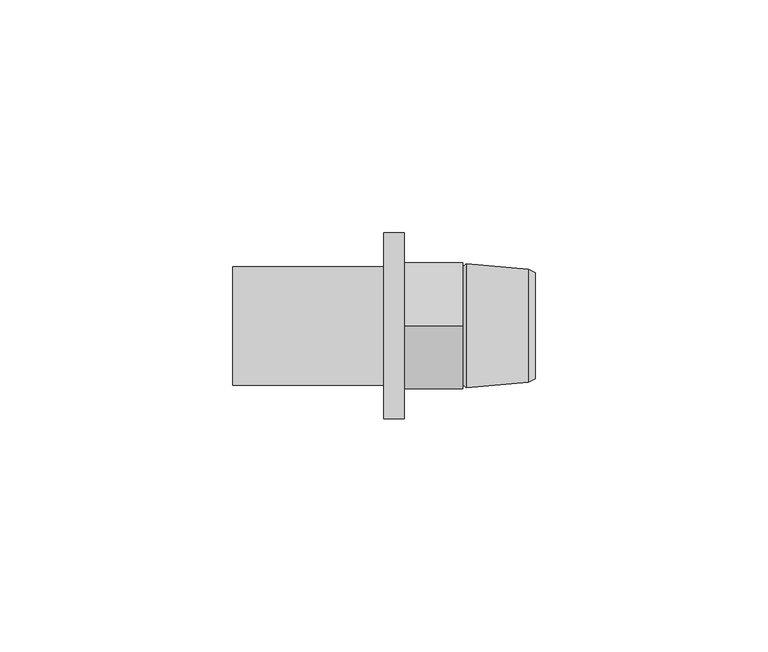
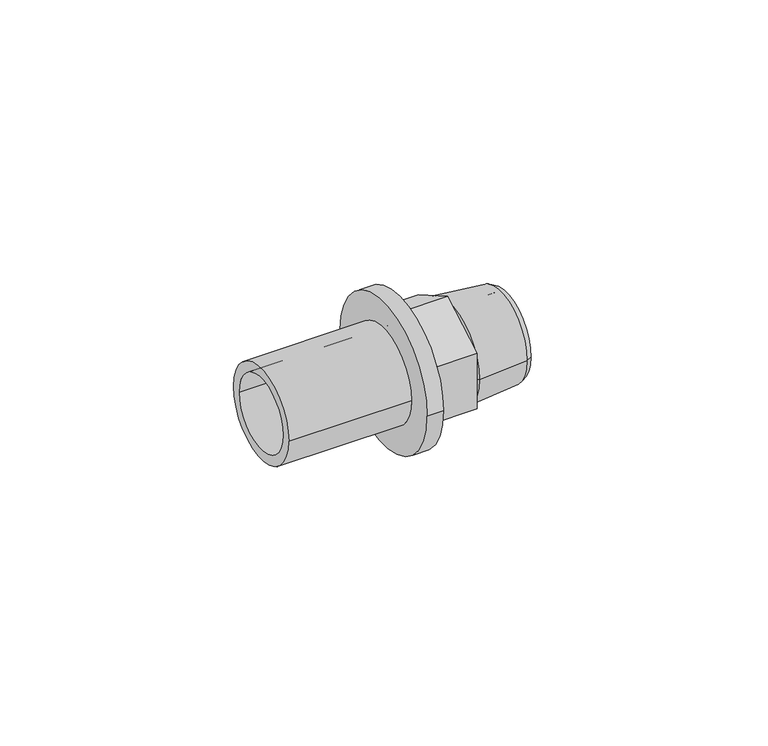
"""IFC4 building model written with IfcOpenShell, lengths in millimetres: pipe fitting geometry, RAUTITAN_Adapter_external_thread LX+G_LX : RTI A external LX+G_LX DE."""

import ifcopenshell
import ifcopenshell.guid

model = None  # the IFC model being written
_history = None  # IfcOwnerHistory: only IFC2X3 demands one
_inside = {}  # id of a spatial element -> (the spatial element, [elements in it])
_under = {}  # id of a project, library or spatial element -> (it, [spatial elements below it])
_declared = {}  # id of a project -> (the project, [libraries it declares])
_typed = {}  # id of a type object -> (the type object, [elements of that type])
_made_of = {}  # id of a material, layer set ... -> (it, [elements and type objects made of it])


def new_model(schema):
    """Start an empty IFC model of exactly this schema.

    Asked for "IFC4X3", IfcOpenShell would pick the latest addendum, in which some entities
    have other attributes; the version numbers below select the first issue.
    IFC2X3 requires an IfcOwnerHistory on every rooted entity: one is made here for all.
    """
    global model, _history
    if schema == "IFC4X3":
        model = ifcopenshell.file(schema_version=(4, 3, 0, 0))
    else:
        model = ifcopenshell.file(schema=schema)
    _inside.clear()
    _under.clear()
    _declared.clear()
    _typed.clear()
    _made_of.clear()
    _history = None
    if model.schema == "IFC2X3":
        org = make("IfcOrganization", Name="unknown")
        user = make(
            "IfcPersonAndOrganization",
            ThePerson=make("IfcPerson", FamilyName="unknown"),
            TheOrganization=org,
        )
        app = make(
            "IfcApplication",
            ApplicationDeveloper=org,
            Version="unknown",
            ApplicationFullName="unknown",
            ApplicationIdentifier="unknown",
        )
        _history = make(
            "IfcOwnerHistory",
            OwningUser=user,
            OwningApplication=app,
            ChangeAction="ADDED",
            CreationDate=0,
        )
    return model


def make(cls, **values):
    """One entity of the class cls with the attributes given. An attribute that is None is left unset."""
    return model.create_entity(
        cls, **{name: value for name, value in values.items() if value is not None}
    )


def rooted(cls, **values):
    """An entity with a GlobalId (a new one), such as an element, a storey or a relation."""
    return make(cls, GlobalId=ifcopenshell.guid.new(), OwnerHistory=_history, **values)


def si_unit(unit_type, name, prefix=None):
    """IfcSIUnit, for example si_unit("LENGTHUNIT", "METRE", prefix="MILLI")."""
    return make("IfcSIUnit", UnitType=unit_type, Prefix=prefix, Name=name)


def assignment(units):
    """IfcUnitAssignment: the units of a project."""
    return None if units is None else make("IfcUnitAssignment", Units=units)


def point(xyz):
    """IfcCartesianPoint."""
    return None if xyz is None else make("IfcCartesianPoint", Coordinates=xyz)


def direction(xyz):
    """IfcDirection."""
    return None if xyz is None else make("IfcDirection", DirectionRatios=xyz)


def frame(location, z_axis=None, x_axis=None):
    """IfcAxis2Placement3D, a coordinate frame: its origin and axes. An axis left out is left unset."""
    return make(
        "IfcAxis2Placement3D",
        Location=point(location),
        Axis=direction(z_axis),
        RefDirection=direction(x_axis),
    )


def origin():
    """The frame at (0, 0, 0) with its axes left unset."""
    return frame((0.0, 0.0, 0.0))


def place(relative_to, where):
    """IfcLocalPlacement: puts the frame where relative to a parent placement (None: the world)."""
    return make(
        "IfcLocalPlacement", PlacementRelTo=relative_to, RelativePlacement=where
    )


def context(
    kind, dimensions, precision=None, world=None, true_north=None, identifier=None
):
    """IfcGeometricRepresentationContext, for example the 3D "Model" context."""
    return make(
        "IfcGeometricRepresentationContext",
        ContextIdentifier=identifier,
        ContextType=kind,
        CoordinateSpaceDimension=dimensions,
        Precision=precision,
        WorldCoordinateSystem=world,
        TrueNorth=true_north,
    )


def project(units=None, contexts=None):
    """IfcProject with its units and contexts."""
    return rooted(
        "IfcProject",
        Name="project",
        RepresentationContexts=contexts,
        UnitsInContext=assignment(units),
    )


def spatial(cls, under=None, at=None, **own):
    """A site, building, storey or space (cls), placed at a placement, below another one or the project."""
    s = rooted(cls, ObjectPlacement=at, **own)
    if under is not None:
        _under.setdefault(under.id(), (under, []))[1].append(s)
    return s


def polyline(points):
    """IfcPolyline through the points."""
    return make("IfcPolyline", Points=[point(p) for p in points])


def circle_curve(where, radius):
    """IfcCircle in the frame where."""
    return make("IfcCircle", Position=where, Radius=radius)


def outline(outer, holes=None, kind="AREA"):
    """IfcArbitraryClosedProfileDef: a profile drawn as a closed curve; with holes, ...WithVoids."""
    if holes is None:
        return make("IfcArbitraryClosedProfileDef", ProfileType=kind, OuterCurve=outer)
    return make(
        "IfcArbitraryProfileDefWithVoids",
        ProfileType=kind,
        OuterCurve=outer,
        InnerCurves=holes,
    )


def extrude(swept, where, along, depth):
    """IfcExtrudedAreaSolid: the profile swept, set in the frame where, extruded along a direction by depth."""
    return make(
        "IfcExtrudedAreaSolid",
        SweptArea=swept,
        Position=where,
        ExtrudedDirection=direction(along),
        Depth=depth,
    )


def shape(context_of_items, identifier, shape_type, items):
    """IfcShapeRepresentation: the items that make up one representation, for example the "Body"."""
    return make(
        "IfcShapeRepresentation",
        ContextOfItems=context_of_items,
        RepresentationIdentifier=identifier,
        RepresentationType=shape_type,
        Items=items,
    )


def source(mapping_origin, context_of_items, identifier, shape_type, items):
    """IfcRepresentationMap: a shape defined once, which mapped items show again and again."""
    return make(
        "IfcRepresentationMap",
        MappingOrigin=mapping_origin,
        MappedRepresentation=shape(context_of_items, identifier, shape_type, items),
    )


def transform(
    local_origin,
    x_axis=None,
    y_axis=None,
    z_axis=None,
    scale=None,
    scale2=None,
    scale3=None,
    uniform=True,
):
    """IfcCartesianTransformationOperator3D, or its non-uniform kind. x_axis, y_axis, z_axis: its Axis1, 2, 3."""
    if uniform:
        return make(
            "IfcCartesianTransformationOperator3D",
            Axis1=direction(x_axis),
            Axis2=direction(y_axis),
            LocalOrigin=point(local_origin),
            Scale=scale,
            Axis3=direction(z_axis),
        )
    return make(
        "IfcCartesianTransformationOperator3DnonUniform",
        Axis1=direction(x_axis),
        Axis2=direction(y_axis),
        LocalOrigin=point(local_origin),
        Scale=scale,
        Axis3=direction(z_axis),
        Scale2=scale2,
        Scale3=scale3,
    )


def mapped(mapping_source, mapping_target):
    """IfcMappedItem: shows the shape of a source again, moved by a transform."""
    return make(
        "IfcMappedItem", MappingSource=mapping_source, MappingTarget=mapping_target
    )


def made_of(thing, what):
    """Note that an element or type object is made of a material, layer set ...; save() writes the relation."""
    if what is not None:
        _made_of.setdefault(what.id(), (what, []))[1].append(thing)
    return thing


def element(
    cls,
    number,
    at=None,
    inside=None,
    cuts=None,
    type_object=None,
    material=None,
    context=None,
    identifier="Body",
    shape_type=None,
    held_by="IfcProductDefinitionShape",
    body=None,
    shapes=None,
    **own,
):
    """One element of the class cls, such as IfcWall. Its Tag is "e" and its number.

    at: its placement. inside: the storey or other place that contains it. cuts: it is an
    opening in that element (IfcRelVoidsElement). A single representation is given by context,
    identifier, shape_type and body (its items); several are given by shapes. held_by: the class
    of the entity that holds the representations. save() writes the other relations.
    """
    e = rooted(cls, Tag="e%d" % number, ObjectPlacement=at, **own)
    if body is not None:
        shapes = [shape(context, identifier, shape_type, body)]
    if shapes is not None:
        e.Representation = make(held_by, Representations=shapes)
    if inside is not None:
        _inside.setdefault(inside.id(), (inside, []))[1].append(e)
    if cuts is not None:
        rooted(
            "IfcRelVoidsElement", RelatingBuildingElement=cuts, RelatedOpeningElement=e
        )
    if type_object is not None:
        _typed.setdefault(type_object.id(), (type_object, []))[1].append(e)
    return made_of(e, material)


def aggregate(whole, parts):
    """IfcRelAggregates: a whole, such as a stair, and the parts it consists of."""
    return rooted("IfcRelAggregates", RelatingObject=whole, RelatedObjects=parts)


def save(model, path):
    """Write the relations noted so far, then the file.

    IfcRelAggregates (storeys below a building ...), IfcRelContainedInSpatialStructure (elements
    in a storey), IfcRelDefinesByType, IfcRelAssociatesMaterial and IfcRelDeclares: one each for
    every whole, place, type object, material and project.
    """
    for whole, parts in _under.values():
        aggregate(whole, parts)
    for where, things in _inside.values():
        rooted(
            "IfcRelContainedInSpatialStructure",
            RelatedElements=things,
            RelatingStructure=where,
        )
    for kind, things in _typed.values():
        rooted("IfcRelDefinesByType", RelatedObjects=things, RelatingType=kind)
    for what, things in _made_of.values():
        rooted("IfcRelAssociatesMaterial", RelatedObjects=things, RelatingMaterial=what)
    for by, libraries in _declared.values():
        rooted("IfcRelDeclares", RelatingContext=by, RelatedDefinitions=libraries)
    model.write(path)


def plane_surface(at):
    """IfcPlane: the flat surface through the origin of the frame at, square to its z axis."""
    return make("IfcPlane", Position=at)


def cylinder_surface(at, radius):
    """IfcCylindricalSurface: all points at the distance radius from the z axis of the frame at."""
    return make("IfcCylindricalSurface", Position=at, Radius=radius)


def revolved_surface(curve, axis_point, axis_direction):
    """IfcSurfaceOfRevolution: the curve turned about the line through axis_point along axis_direction."""
    return make(
        "IfcSurfaceOfRevolution",
        SweptCurve=make("IfcArbitraryOpenProfileDef", ProfileType="CURVE", Curve=curve),
        AxisPosition=make("IfcAxis1Placement", Location=point(axis_point), Axis=direction(axis_direction)),
    )


def advanced_brep(points, edges, surfaces, faces):
    """IfcAdvancedBrep: a solid bounded by faces that lie on surfaces and meet in shared edges.

    An edge is (start, end): straight between two places in points (the first is 0);
    or (start, end, curve); or (start, end, curve, False) where it runs against its curve.
    A face is (place in surfaces, loops), or (place, loops, False) where it looks against
    its surface's normal. A loop lists edges by number (the first is 1), with a minus sign
    where the edge is run from its end to its start. The first loop is the outer one.
    """
    corners = [point(p) for p in points]
    vertices = [make("IfcVertexPoint", VertexGeometry=c) for c in corners]
    made = []
    for start, end, *more in edges:
        made.append(
            make(
                "IfcEdgeCurve",
                EdgeStart=vertices[start],
                EdgeEnd=vertices[end],
                EdgeGeometry=more[0] if more else make("IfcPolyline", Points=[corners[start], corners[end]]),
                SameSense=more[1] if len(more) > 1 else True,
            )
        )
    hull = []
    for where, loops, *sense in faces:
        bounds = []
        for j, loop in enumerate(loops):
            ring = [make("IfcOrientedEdge", EdgeElement=made[abs(k) - 1], Orientation=k > 0) for k in loop]
            bounds.append(
                make(
                    "IfcFaceOuterBound" if j == 0 else "IfcFaceBound",
                    Bound=make("IfcEdgeLoop", EdgeList=ring),
                    Orientation=True,
                )
            )
        hull.append(make("IfcAdvancedFace", Bounds=bounds, FaceSurface=surfaces[where], SameSense=sense[0] if sense else True))
    return make("IfcAdvancedBrep", Outer=make("IfcClosedShell", CfsFaces=hull))


def pipe_fitting_1be4a6b4(model_context):
    return source(origin(), model_context, "Body", "SolidModel", [
        advanced_brep(
        [(-4.33, 12.725, 0.0), (-4.33, -12.725, 0.0), (-36.81, -12.725, 0.0), (-36.81, 12.725, 0.0), (0.0, 20.0, 0.0), (0.0, -20.0, 0.0), (-4.33, -20.0, 0.0), (-4.33, 20.0, 0.0), (-36.81, 10.0, 0.0), (-36.81, -10.0, 0.0), (0.0, -10.0, 0.0), (0.0, 10.0, 0.0)],
        [
            (0, 1, circle_curve(frame((-4.33, 0.0, 0.0), z_axis=(-1.0, 0.0, 0.0), x_axis=(0.0, -1.0, 0.0)), 12.725)),
            (1, 2),
            (2, 3, circle_curve(frame((-36.81, 0.0, 0.0), z_axis=(1.0, 0.0, 0.0), x_axis=(0.0, -1.0, 0.0)), 12.725)),
            (3, 0),
            (4, 5, circle_curve(frame((0.0, 0.0, 0.0), z_axis=(-1.0, 0.0, 0.0), x_axis=(0.0, -1.0, 0.0)), 20.0)),
            (5, 6),
            (6, 7, circle_curve(frame((-4.33, 0.0, 0.0), z_axis=(1.0, 0.0, 0.0), x_axis=(0.0, -1.0, 0.0)), 20.0)),
            (7, 4),
            (8, 9, circle_curve(frame((-36.81, 0.0, 0.0), z_axis=(-1.0, 0.0, 0.0), x_axis=(0.0, -1.0, 0.0)), 10.0)),
            (9, 10),
            (10, 11, circle_curve(frame((0.0, 0.0, 0.0), z_axis=(1.0, 0.0, 0.0), x_axis=(0.0, -1.0, 0.0)), 10.0)),
            (11, 8),
            (2, 3, circle_curve(frame((-36.81, 0.0, 0.0), z_axis=(-1.0, 0.0, 0.0), x_axis=(0.0, 1.0, 0.0)), 12.725)),
            (8, 9, circle_curve(frame((-36.81, 0.0, 0.0), z_axis=(1.0, 0.0, 0.0), x_axis=(0.0, 1.0, 0.0)), 10.0)),
            (1, 0, circle_curve(frame((-4.33, 0.0, 0.0), z_axis=(-1.0, 0.0, 0.0), x_axis=(0.0, 1.0, 0.0)), 12.725)),
            (6, 7, circle_curve(frame((-4.33, 0.0, 0.0), z_axis=(-1.0, 0.0, 0.0), x_axis=(0.0, 1.0, 0.0)), 20.0)),
            (5, 4, circle_curve(frame((0.0, 0.0, 0.0), z_axis=(-1.0, 0.0, 0.0), x_axis=(0.0, 1.0, 0.0)), 20.0)),
            (10, 11, circle_curve(frame((0.0, 0.0, 0.0), z_axis=(-1.0, 0.0, 0.0), x_axis=(0.0, 1.0, 0.0)), 10.0)),
        ],
        [
            cylinder_surface(frame((0.0, 0.0, 0.0), z_axis=(1.0, 0.0, 0.0), x_axis=(0.0, -1.0, 0.0)), 12.725),
            cylinder_surface(frame((0.0, 0.0, 0.0), z_axis=(1.0, 0.0, 0.0), x_axis=(0.0, -1.0, 0.0)), 20.0),
            revolved_surface(polyline([(0.0, -10.0, 0.0), (-36.81, -10.0, 0.0)]), (0.0, 0.0, 0.0), (1.0, 0.0, 0.0)),
            plane_surface(frame((-36.81, 0.0, 0.0), z_axis=(-1.0, 0.0, 0.0), x_axis=(0.0, 1.0, 0.0))),
            cylinder_surface(frame((0.0, 0.0, 0.0), z_axis=(1.0, 0.0, 0.0), x_axis=(0.0, 1.0, 0.0)), 12.725),
            plane_surface(frame((-4.33, 0.0, 0.0), z_axis=(-1.0, 0.0, 0.0), x_axis=(0.0, 1.0, 0.0))),
            cylinder_surface(frame((0.0, 0.0, 0.0), z_axis=(1.0, 0.0, 0.0), x_axis=(0.0, 1.0, 0.0)), 20.0),
            plane_surface(frame((0.0, 0.0, 0.0), z_axis=(1.0, 0.0, 0.0), x_axis=(0.0, 1.0, 0.0))),
            revolved_surface(polyline([(0.0, 10.0, 0.0), (-36.81, 10.0, 0.0)]), (0.0, 0.0, 0.0), (1.0, 0.0, 0.0)),
        ],
        [
            (0, [[1, 2, 3, 4]]),
            (1, [[5, 6, 7, 8]]),
            (2, [[9, 10, 11, 12]]),
            (3, [[13, -3], [14, -9]]),
            (4, [[15, -4, -13, -2]]),
            (5, [[16, -7], [-15, -1]]),
            (6, [[17, -8, -16, -6]]),
            (7, [[-17, -5], [18, -11]]),
            (8, [[-14, -12, -18, -10]]),
        ],
    ),
        advanced_brep(
        [(13.7532803, 9.5, 0.0), (13.7532803, -9.5, 0.0), (28.19, -9.5, 0.0), (28.19, 9.5, 0.0), (12.65, 8.3967197, 0.0), (12.65, -8.3967197, 0.0), (13.3906902, 13.29, 0.0), (13.3906902, -13.29, 0.0), (12.65, -12.7, 0.0), (12.65, 12.7, 0.0), (26.6900007, 12.13, 0.0), (26.6900007, -12.13, 0.0), (28.19, 11.375, 0.0), (28.19, -11.375, 0.0)],
        [
            (0, 1, circle_curve(frame((13.7532803, 0.0, 0.0), z_axis=(-1.0, 0.0, 0.0), x_axis=(0.0, -1.0, 0.0)), 9.5)),
            (1, 2),
            (2, 3, circle_curve(frame((28.19, 0.0, 0.0), z_axis=(1.0, 0.0, 0.0), x_axis=(0.0, -1.0, 0.0)), 9.5)),
            (3, 0),
            (4, 5, circle_curve(frame((12.65, 0.0, 0.0), z_axis=(-1.0, 0.0, 0.0), x_axis=(0.0, -1.0, 0.0)), 8.3967197)),
            (5, 1),
            (0, 4),
            (6, 7, circle_curve(frame((13.3906902, 0.0, 0.0), z_axis=(-1.0, 0.0, 0.0), x_axis=(0.0, -1.0, 0.0)), 13.29)),
            (7, 8),
            (8, 9, circle_curve(frame((12.65, 0.0, 0.0), z_axis=(1.0, 0.0, 0.0), x_axis=(0.0, -1.0, 0.0)), 12.7)),
            (9, 6),
            (10, 11, circle_curve(frame((26.6900007, 0.0, 0.0), z_axis=(-1.0, 0.0, 0.0), x_axis=(0.0, -1.0, 0.0)), 12.13)),
            (11, 7),
            (6, 10),
            (12, 13, circle_curve(frame((28.19, 0.0, 0.0), z_axis=(-1.0, 0.0, 0.0), x_axis=(0.0, -1.0, 0.0)), 11.375)),
            (13, 11),
            (10, 12),
            (1, 0, circle_curve(frame((13.7532803, 0.0, 0.0), z_axis=(-1.0, 0.0, 0.0), x_axis=(0.0, 1.0, 0.0)), 9.5)),
            (3, 2, circle_curve(frame((28.19, 0.0, 0.0), z_axis=(1.0, 0.0, 0.0), x_axis=(0.0, 1.0, 0.0)), 9.5)),
            (5, 4, circle_curve(frame((12.65, 0.0, 0.0), z_axis=(-1.0, 0.0, 0.0), x_axis=(0.0, 1.0, 0.0)), 8.3967197)),
            (8, 9, circle_curve(frame((12.65, 0.0, 0.0), z_axis=(-1.0, 0.0, 0.0), x_axis=(0.0, 1.0, 0.0)), 12.7)),
            (7, 6, circle_curve(frame((13.3906902, 0.0, 0.0), z_axis=(-1.0, 0.0, 0.0), x_axis=(0.0, 1.0, 0.0)), 13.29)),
            (11, 10, circle_curve(frame((26.6900007, 0.0, 0.0), z_axis=(-1.0, 0.0, 0.0), x_axis=(0.0, 1.0, 0.0)), 12.13)),
            (13, 12, circle_curve(frame((28.19, 0.0, 0.0), z_axis=(-1.0, 0.0, 0.0), x_axis=(0.0, 1.0, 0.0)), 11.375)),
        ],
        [
            revolved_surface(polyline([(28.19, -9.5, 0.0), (13.7532803, -9.5, 0.0)]), (0.0, 0.0, 0.0), (1.0, 0.0, 0.0)),
            revolved_surface(polyline([(13.7532803, -9.5, 0.0), (12.65, -8.3967197, 0.0)]), (0.0, 0.0, 0.0), (1.0, 0.0, 0.0)),
            revolved_surface(polyline([(12.65, -12.7, 0.0), (13.3906902, -13.29, 0.0)]), (0.0, 0.0, 0.0), (1.0, 0.0, 0.0)),
            revolved_surface(polyline([(13.3906902, -13.29, 0.0), (26.6900007, -12.13, 0.0)]), (0.0, 0.0, 0.0), (1.0, 0.0, 0.0)),
            revolved_surface(polyline([(26.6900007, -12.13, 0.0), (28.19, -11.375, 0.0)]), (0.0, 0.0, 0.0), (1.0, 0.0, 0.0)),
            revolved_surface(polyline([(28.19, 9.5, 0.0), (13.7532803, 9.5, 0.0)]), (0.0, 0.0, 0.0), (1.0, 0.0, 0.0)),
            revolved_surface(polyline([(13.7532803, 9.5, 0.0), (12.65, 8.3967197, 0.0)]), (0.0, 0.0, 0.0), (1.0, 0.0, 0.0)),
            plane_surface(frame((12.65, 0.0, 0.0), z_axis=(-1.0, 0.0, 0.0), x_axis=(0.0, 1.0, 0.0))),
            revolved_surface(polyline([(12.65, 12.7, 0.0), (13.3906902, 13.29, 0.0)]), (0.0, 0.0, 0.0), (1.0, 0.0, 0.0)),
            revolved_surface(polyline([(13.3906902, 13.29, 0.0), (26.6900007, 12.13, 0.0)]), (0.0, 0.0, 0.0), (1.0, 0.0, 0.0)),
            revolved_surface(polyline([(26.6900007, 12.13, 0.0), (28.19, 11.375, 0.0)]), (0.0, 0.0, 0.0), (1.0, 0.0, 0.0)),
            plane_surface(frame((28.19, 0.0, 0.0), z_axis=(1.0, 0.0, 0.0), x_axis=(0.0, 1.0, 0.0))),
        ],
        [
            (0, [[1, 2, 3, 4]]),
            (1, [[5, 6, -1, 7]]),
            (2, [[8, 9, 10, 11]]),
            (3, [[12, 13, -8, 14]]),
            (4, [[15, 16, -12, 17]]),
            (5, [[18, -4, 19, -2]]),
            (6, [[20, -7, -18, -6]]),
            (7, [[21, -10], [-20, -5]]),
            (8, [[22, -11, -21, -9]]),
            (9, [[23, -14, -22, -13]]),
            (10, [[24, -17, -23, -16]]),
            (11, [[-24, -15], [-19, -3]]),
        ],
    ),
        extrude(outline(polyline([(-13.5, 7.7942286), (0.0, 15.5884573), (13.5, 7.7942286), (13.5, -7.7942286), (0.0, -15.5884573), (-13.5, -7.7942286), (-13.5, 7.7942286)])), frame((0.0, 0.0, 0.0), z_axis=(1.0, 0.0, 0.0), x_axis=(0.0, 1.0, 0.0)), (0.0, 0.0, 1.0), 12.65),
    ])


if __name__ == "__main__":
    model = new_model("IFC4")
    model_context = context("Model", 3, world=origin())
    ifc_project = project(units=[si_unit("LENGTHUNIT", "METRE", prefix="MILLI")], contexts=[model_context])
    site = spatial("IfcSite", under=ifc_project)
    building = spatial("IfcBuilding", under=site)
    placement = place(None, origin())
    pipe_fitting_shape = pipe_fitting_1be4a6b4(model_context)
    element("IfcPipeFitting", 1, ObjectType="RAUTITAN_Adapter_external_thread LX+G_LX : RTI A external LX+G_LX DE", at=placement, inside=building, context=model_context, shape_type="MappedRepresentation", body=[
        mapped(pipe_fitting_shape, transform((0.0, 0.0, 0.0), x_axis=(1.0, 0.0, 0.0), y_axis=(0.0, 1.0, 0.0), z_axis=(0.0, 0.0, 1.0))),
    ])
    save(model, "model.ifc")
